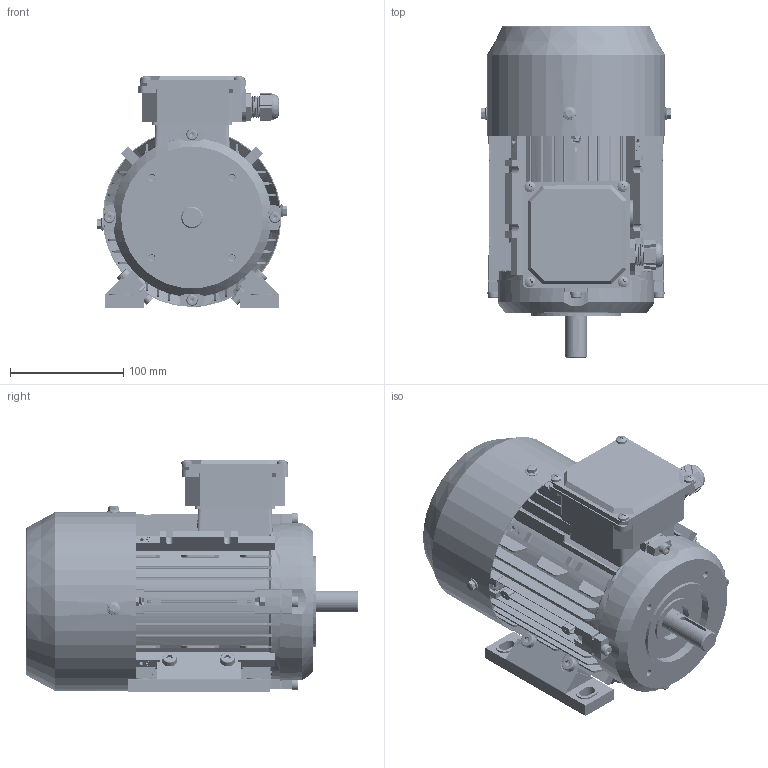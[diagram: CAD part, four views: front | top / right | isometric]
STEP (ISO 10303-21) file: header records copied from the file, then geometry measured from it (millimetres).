
FILE_DESCRIPTION (( 'STEP AP203' ), '1' );
FILE_NAME ('ME3-80B34 3Dͼ.STEP', '2024-05-18T06:54:05', ( 'User' ), ( 'China' ), 'SwSTEP 2.0', 'SolidWorks 2018', '' );
FILE_SCHEMA (( 'CONFIG_CONTROL_DESIGN' ));
Length unit declared in the file: millimetre
Products named in the file (21): wave single coil spring lock washers gb_GB_FASTENER_WASHER_WSLW 8; hex nuts, style 2-grades ab gb_GB_HEXAGON_TYPE13 M5 Normal Style-C; ME3 80儂褲; hex nuts-style normal-grades ab gb_GB_HEXAGON_TYPE10 M8X1-C; hex lobular socket head cap screws-4.8 gb_GB_HEXAGON_TYPE21 M6X30-30-S; ME2  B3后瑞盖; ME2 80B14瑞盖; ME2  80瑞欶; ME2  80蛌粣; hex lobular socket head cap screws-4.8 gb_GB_HEXAGON_TYPE21 M6X30-30-C; hex flange bolts-heavy grade b gb_GB_FASTENER_BOLT_HFBB M5X10-C; MS63-71諉盄碟菁釱; ME3-80B34 3Dͼ; wave single coil spring lock washers gb_GB_FASTENER_WASHER_WSLW 6; 蹟杶郋M20X1.5; 黑芛20X1.5; 蹟簸M20X1.5; ME2 80菁褐; cross recessed pan head screws gb_GB_CROSS_SCREWS_TYPE1 M5X8-8  H type-C; hex lobular socket head cap screws-4.8 gb_GB_HEXAGON_TYPE21 M8X30-30-C; MS63-71諉盄碟裔
Assembly tree (54 placements, depth 2):
  ME3-80B34 3Dͼ
    ME3 80儂褲
    ME2  B3后瑞盖
    ME2  80蛌粣
    MS63-71諉盄碟菁釱
    蹟杶郋M20X1.5
    蹟簸M20X1.5
    cross recessed pan head screws gb_GB_CROSS_SCREWS_TYPE1 M5X8-8  H type-C  x8
    MS63-71諉盄碟裔
    hex nuts, style 2-grades ab gb_GB_HEXAGON_TYPE13 M5 Normal Style-C  x7
    hex lobular socket head cap screws-4.8 gb_GB_HEXAGON_TYPE21 M6X30-30-S  x4
    ME2  80瑞欶
    hex flange bolts-heavy grade b gb_GB_FASTENER_BOLT_HFBB M5X10-C  x3
    wave single coil spring lock washers gb_GB_FASTENER_WASHER_WSLW 6  x4
    黑芛20X1.5
    ME2 80菁褐  x2
    hex lobular socket head cap screws-4.8 gb_GB_HEXAGON_TYPE21 M8X30-30-C  x4
    wave single coil spring lock washers gb_GB_FASTENER_WASHER_WSLW 8  x4
    hex nuts-style normal-grades ab gb_GB_HEXAGON_TYPE10 M8X1-C  x4
    ME2 80B14瑞盖
    hex lobular socket head cap screws-4.8 gb_GB_HEXAGON_TYPE21 M6X30-30-C  x4
Bounding box: 168.19 x 292.56 x 205 mm (x, y, z)
Volume: 973131.9 mm3; surface area: 638813.6 mm2
Topology: 54 solids, 56 shells, 5549 faces, 14305 edges, 9005 vertices
Faces by surface type: plane 2622, cylinder 1340, cone 1135, torus 218, bspline 218, sphere 16
Entity records: 147029 total; most frequent: CARTESIAN_POINT 46625, ORIENTED_EDGE 21524, DIRECTION 18585, EDGE_CURVE 10762, VERTEX_POINT 7003, VECTOR 6235, LINE 6235, AXIS2_PLACEMENT_3D 6175
